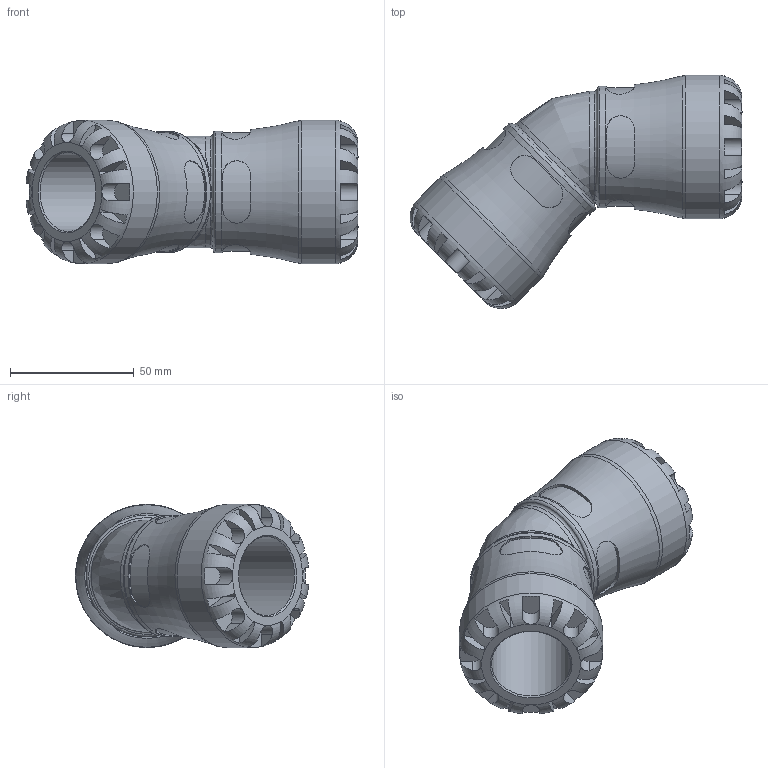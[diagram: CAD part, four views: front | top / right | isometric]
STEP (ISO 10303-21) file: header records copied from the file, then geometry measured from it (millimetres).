
FILE_DESCRIPTION(/* description */ ('PLASSON G-PLASS 45° ELBOW 32-32'),/* implementation_level */ '2;1');
FILE_NAME(/* name */ 'C:\Dropbox\KIMPROJECTS-Inventor 2019\99-16-3568-Processing\S1\150600\stp\150600032.stp',/* time_stamp */ '2023-10-17T19:36:46+03:00',/* author */ ('KIM'),/* organization */ (''),/* preprocessor_version */ 'ST-DEVELOPER v17.2',/* originating_system */ 'Autodesk Inventor 2019',/* authorisation */ '');
FILE_SCHEMA (('AUTOMOTIVE_DESIGN { 1 0 10303 214 3 1 1 }'));
Length unit declared in the file: millimetre
Products named in the file (1): 150600032
Bounding box: 134.39 x 94.39 x 58 mm (x, y, z)
Volume: 187129.8 mm3; surface area: 42806.6 mm2
Topology: 1 solids, 1 shells, 196 faces, 524 edges, 336 vertices
Faces by surface type: plane 116, cylinder 66, torus 11, cone 2, bspline 1
Full cylindrical faces by diameter (mm): 26.667 x2, 32 x2, 49.3 x2, 58 x2
Entity records: 8047 total; most frequent: CARTESIAN_POINT 3009, ORIENTED_EDGE 1044, DIRECTION 1006, EDGE_CURVE 522, AXIS2_PLACEMENT_3D 418, VERTEX_POINT 336, CIRCLE 220, EDGE_LOOP 206
